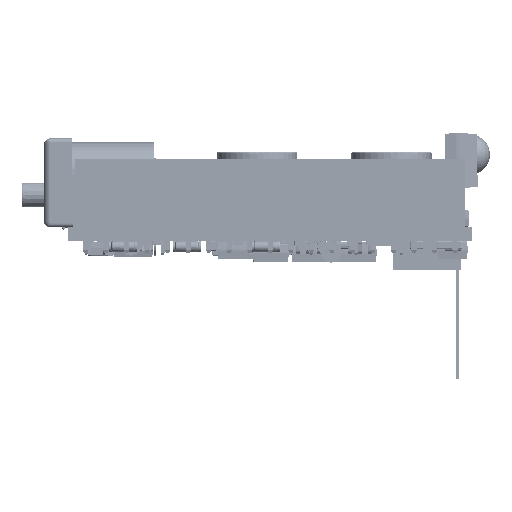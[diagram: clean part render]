
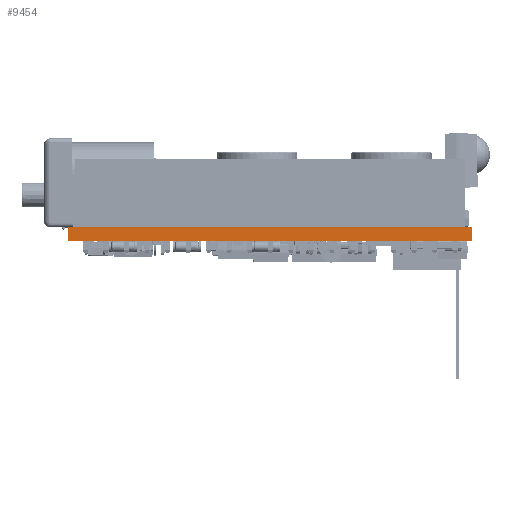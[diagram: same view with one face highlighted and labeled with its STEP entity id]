
A CAD part, left-side view. The second image highlights one B-rep face of the part: STEP entity #9454.
In plain terms, the highlighted planar face has unit normal (-1, 0, 0).
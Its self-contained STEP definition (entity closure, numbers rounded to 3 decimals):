
#9356 = EDGE_CURVE('',#9357,#9359,#9361,.T.);
#9357 = VERTEX_POINT('',#9358);
#9358 = CARTESIAN_POINT('',(0.,0.,-1.691));
#9359 = VERTEX_POINT('',#9360);
#9360 = CARTESIAN_POINT('',(0.,0.,0.));
#9361 = LINE('',#9362,#9363);
#9362 = CARTESIAN_POINT('',(0.,0.,-1.691));
#9363 = VECTOR('',#9364,1.);
#9364 = DIRECTION('',(0.,0.,1.));
#9429 = VERTEX_POINT('',#9430);
#9430 = CARTESIAN_POINT('',(0.,50.,0.));
#9436 = EDGE_CURVE('',#9437,#9429,#9439,.T.);
#9437 = VERTEX_POINT('',#9438);
#9438 = CARTESIAN_POINT('',(0.,50.,-1.691));
#9439 = LINE('',#9440,#9441);
#9440 = CARTESIAN_POINT('',(0.,50.,-1.691));
#9441 = VECTOR('',#9442,1.);
#9442 = DIRECTION('',(0.,0.,1.));
#9454 = ADVANCED_FACE('',(#9455),#9471,.F.);
#9455 = FACE_BOUND('',#9456,.F.);
#9456 = EDGE_LOOP('',(#9457,#9458,#9464,#9465));
#9457 = ORIENTED_EDGE('',*,*,#9436,.T.);
#9458 = ORIENTED_EDGE('',*,*,#9459,.T.);
#9459 = EDGE_CURVE('',#9429,#9359,#9460,.T.);
#9460 = LINE('',#9461,#9462);
#9461 = CARTESIAN_POINT('',(0.,50.,0.));
#9462 = VECTOR('',#9463,1.);
#9463 = DIRECTION('',(0.,-1.,0.));
#9464 = ORIENTED_EDGE('',*,*,#9356,.F.);
#9465 = ORIENTED_EDGE('',*,*,#9466,.F.);
#9466 = EDGE_CURVE('',#9437,#9357,#9467,.T.);
#9467 = LINE('',#9468,#9469);
#9468 = CARTESIAN_POINT('',(0.,50.,-1.691));
#9469 = VECTOR('',#9470,1.);
#9470 = DIRECTION('',(0.,-1.,0.));
#9471 = PLANE('',#9472);
#9472 = AXIS2_PLACEMENT_3D('',#9473,#9474,#9475);
#9473 = CARTESIAN_POINT('',(0.,50.,-1.691));
#9474 = DIRECTION('',(1.,0.,0.));
#9475 = DIRECTION('',(0.,-1.,0.));
